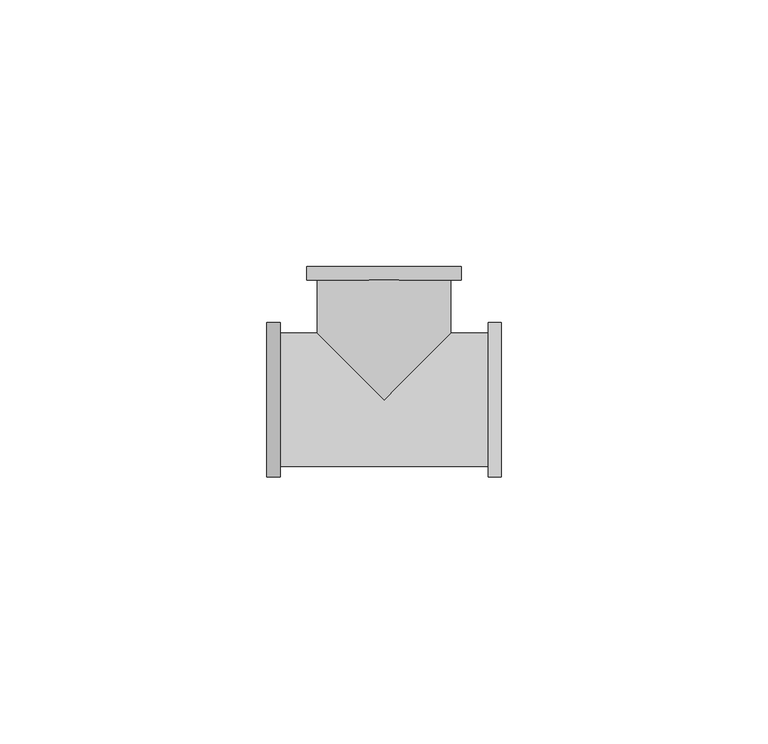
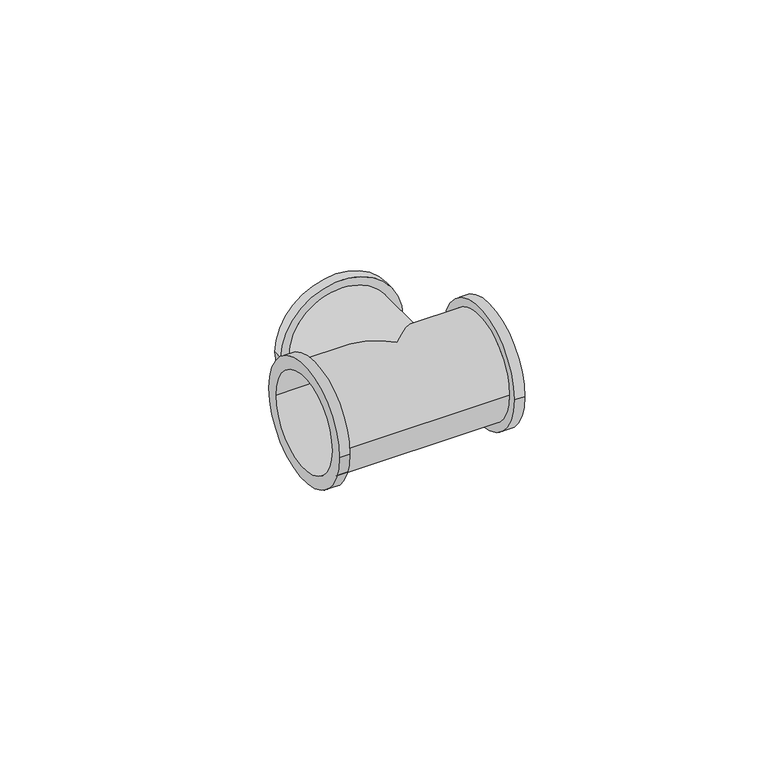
"""IFC4 building model written with IfcOpenShell, lengths in millimetres: pipe fitting geometry, БИР ПЕКС_НПР_Тройник ПЕКС : Тройник ПЕКС_НПР."""

from ifc_helpers import new_model, si_unit, frame, origin, place, context, project, spatial, polyline, circle_curve, ellipse_curve, source, transform, mapped, element, save
from ifc_brep_helpers import plane_surface, cylinder_surface, revolved_surface, advanced_brep


def pipe_fitting_b430804d(model_context):
    return source(origin(), model_context, "Body", "AdvancedBrep", [
        advanced_brep(
        [(-14.5, 25.0, 0.0), (14.5, 25.0, 0.0), (-11.5, 25.0, 0.0), (11.5, 25.0, 0.0), (12.5, 12.5, 0.0), (0.0, 0.0, -12.5), (-12.5, 12.5, 0.0), (-12.5, 22.5, 0.0), (12.5, 22.5, 0.0), (0.0, 0.0, 12.5), (22.0, -14.5, 0.0), (22.0, 14.5, 0.0), (22.0, 11.5, 0.0), (22.0, -11.5, 0.0), (-22.0, -14.5, 0.0), (-22.0, 14.5, 0.0), (-22.0, -11.5, 0.0), (-22.0, 11.5, 0.0), (19.5, 12.5, 0.0), (19.5, -12.5, 0.0), (-19.5, -12.5, 0.0), (-19.5, 12.5, 0.0), (-14.5, 22.5, 0.0), (14.5, 22.5, 0.0), (-19.5, -14.5, 0.0), (-19.5, 14.5, 0.0), (19.5, -14.5, 0.0), (19.5, 14.5, 0.0), (11.5, 11.5, 0.0), (0.0, 0.0, -11.5), (-11.5, 11.5, 0.0), (0.0, 0.0, 11.5)],
        [
            (0, 1, circle_curve(frame((0.0, 25.0, 0.0), z_axis=(0.0, 1.0, 0.0), x_axis=(1.0, 0.0, 0.0)), 14.5)),
            (1, 0, circle_curve(frame((0.0, 25.0, 0.0), z_axis=(0.0, 1.0, 0.0), x_axis=(1.0, 0.0, 0.0)), 14.5)),
            (2, 3, circle_curve(frame((0.0, 25.0, 0.0), z_axis=(0.0, -1.0, 0.0), x_axis=(1.0, 0.0, 0.0)), 11.5)),
            (3, 2, circle_curve(frame((0.0, 25.0, 0.0), z_axis=(0.0, -1.0, 0.0), x_axis=(1.0, 0.0, 0.0)), 11.5)),
            (4, 5, ellipse_curve(frame((0.0, 0.0, 0.0), z_axis=(-0.7071067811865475, 0.7071067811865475, 0.0), x_axis=(-0.7071067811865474, -0.7071067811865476, 0.0)), 17.6776695, 12.5)),
            (5, 6, ellipse_curve(frame((0.0, 0.0, 0.0), z_axis=(0.7071067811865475, 0.7071067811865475, 0.0), x_axis=(0.7071067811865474, -0.7071067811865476, 0.0)), 17.6776695, 12.5)),
            (6, 7),
            (7, 8, circle_curve(frame((0.0, 22.5, 0.0), z_axis=(0.0, -1.0, 0.0), x_axis=(1.0, 0.0, 0.0)), 12.5)),
            (8, 4),
            (9, 4, ellipse_curve(frame((0.0, 0.0, 0.0), z_axis=(-0.7071067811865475, 0.7071067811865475, 0.0), x_axis=(-0.7071067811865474, -0.7071067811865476, 0.0)), 17.6776695, 12.5)),
            (8, 7, circle_curve(frame((0.0, 22.5, 0.0), z_axis=(0.0, -1.0, 0.0), x_axis=(1.0, 0.0, 0.0)), 12.5)),
            (6, 9, ellipse_curve(frame((0.0, 0.0, 0.0), z_axis=(0.7071067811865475, 0.7071067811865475, 0.0), x_axis=(0.7071067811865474, -0.7071067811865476, 0.0)), 17.6776695, 12.5)),
            (10, 11, circle_curve(frame((22.0, 0.0, 0.0), z_axis=(1.0, 0.0, 0.0), x_axis=(0.0, 1.0, 0.0)), 14.5)),
            (11, 10, circle_curve(frame((22.0, 0.0, 0.0), z_axis=(1.0, 0.0, 0.0), x_axis=(0.0, 1.0, 0.0)), 14.5)),
            (12, 13, circle_curve(frame((22.0, 0.0, 0.0), z_axis=(-1.0, 0.0, 0.0), x_axis=(0.0, 1.0, 0.0)), 11.5)),
            (13, 12, circle_curve(frame((22.0, 0.0, 0.0), z_axis=(-1.0, 0.0, 0.0), x_axis=(0.0, 1.0, 0.0)), 11.5)),
            (14, 15, circle_curve(frame((-22.0, 0.0, 0.0), z_axis=(-1.0, 0.0, 0.0), x_axis=(0.0, 1.0, 0.0)), 14.5)),
            (15, 14, circle_curve(frame((-22.0, 0.0, 0.0), z_axis=(-1.0, 0.0, 0.0), x_axis=(0.0, 1.0, 0.0)), 14.5)),
            (16, 17, circle_curve(frame((-22.0, 0.0, 0.0), z_axis=(1.0, 0.0, 0.0), x_axis=(0.0, 1.0, 0.0)), 11.5)),
            (17, 16, circle_curve(frame((-22.0, 0.0, 0.0), z_axis=(1.0, 0.0, 0.0), x_axis=(0.0, 1.0, 0.0)), 11.5)),
            (4, 18),
            (18, 19, circle_curve(frame((19.5, 0.0, 0.0), z_axis=(-1.0, 0.0, 0.0), x_axis=(0.0, 1.0, 0.0)), 12.5)),
            (19, 20),
            (20, 21, circle_curve(frame((-19.5, 0.0, 0.0), z_axis=(1.0, 0.0, 0.0), x_axis=(0.0, 1.0, 0.0)), 12.5)),
            (21, 6),
            (21, 20, circle_curve(frame((-19.5, 0.0, 0.0), z_axis=(1.0, 0.0, 0.0), x_axis=(0.0, 1.0, 0.0)), 12.5)),
            (19, 18, circle_curve(frame((19.5, 0.0, 0.0), z_axis=(-1.0, 0.0, 0.0), x_axis=(0.0, 1.0, 0.0)), 12.5)),
            (22, 23, circle_curve(frame((0.0, 22.5, 0.0), z_axis=(0.0, -1.0, 0.0), x_axis=(1.0, 0.0, 0.0)), 14.5)),
            (23, 22, circle_curve(frame((0.0, 22.5, 0.0), z_axis=(0.0, -1.0, 0.0), x_axis=(1.0, 0.0, 0.0)), 14.5)),
            (22, 0),
            (1, 23),
            (24, 25, circle_curve(frame((-19.5, 0.0, 0.0), z_axis=(1.0, 0.0, 0.0), x_axis=(0.0, 1.0, 0.0)), 14.5)),
            (25, 24, circle_curve(frame((-19.5, 0.0, 0.0), z_axis=(1.0, 0.0, 0.0), x_axis=(0.0, 1.0, 0.0)), 14.5)),
            (15, 25),
            (24, 14),
            (26, 27, circle_curve(frame((19.5, 0.0, 0.0), z_axis=(-1.0, 0.0, 0.0), x_axis=(0.0, 1.0, 0.0)), 14.5)),
            (27, 26, circle_curve(frame((19.5, 0.0, 0.0), z_axis=(-1.0, 0.0, 0.0), x_axis=(0.0, 1.0, 0.0)), 14.5)),
            (10, 26),
            (27, 11),
            (16, 13),
            (12, 28),
            (28, 29, ellipse_curve(frame((0.0, 0.0, 0.0), z_axis=(-0.7071067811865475, 0.7071067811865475, 0.0), x_axis=(0.7071067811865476, 0.7071067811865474, 0.0)), 16.263456, 11.5)),
            (29, 30, ellipse_curve(frame((0.0, 0.0, 0.0), z_axis=(0.7071067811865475, 0.7071067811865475, 0.0), x_axis=(0.7071067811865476, -0.7071067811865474, 0.0)), 16.263456, 11.5)),
            (30, 17),
            (30, 31, ellipse_curve(frame((0.0, 0.0, 0.0), z_axis=(0.7071067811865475, 0.7071067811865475, 0.0), x_axis=(0.7071067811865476, -0.7071067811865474, 0.0)), 16.263456, 11.5)),
            (31, 28, ellipse_curve(frame((0.0, 0.0, 0.0), z_axis=(-0.7071067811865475, 0.7071067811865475, 0.0), x_axis=(0.7071067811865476, 0.7071067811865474, 0.0)), 16.263456, 11.5)),
            (2, 30),
            (28, 3),
        ],
        [
            plane_surface(frame((12.5, 25.0, 0.0), z_axis=(0.0, 1.0, 0.0), x_axis=(0.0, 0.0, -1.0))),
            cylinder_surface(frame((0.0, 25.0, 0.0), z_axis=(0.0, -1.0, 0.0), x_axis=(1.0, 0.0, 0.0)), 12.5),
            plane_surface(frame((22.0, 12.5, 0.0), z_axis=(1.0, 0.0, 0.0), x_axis=(0.0, 0.0, 1.0))),
            plane_surface(frame((-22.0, 12.5, 0.0), z_axis=(-1.0, 0.0, 0.0), x_axis=(0.0, 0.0, -1.0))),
            cylinder_surface(frame((-22.0, 0.0, 0.0), z_axis=(1.0, 0.0, 0.0), x_axis=(0.0, 1.0, 0.0)), 12.5),
            plane_surface(frame((14.5, 22.5, 0.0), z_axis=(0.0, -1.0, 0.0), x_axis=(0.0, 0.0, 1.0))),
            cylinder_surface(frame((0.0, 25.0, 0.0), z_axis=(0.0, -1.0, 0.0), x_axis=(1.0, 0.0, 0.0)), 14.5),
            plane_surface(frame((-19.5, 14.5, 0.0), z_axis=(1.0, 0.0, 0.0), x_axis=(0.0, 0.0, 1.0))),
            cylinder_surface(frame((-19.5, 0.0, 0.0), z_axis=(-1.0, 0.0, 0.0), x_axis=(0.0, 1.0, 0.0)), 14.5),
            plane_surface(frame((19.5, 14.5, 0.0), z_axis=(-1.0, 0.0, 0.0), x_axis=(0.0, 0.0, -1.0))),
            cylinder_surface(frame((19.5, 0.0, 0.0), z_axis=(1.0, 0.0, 0.0), x_axis=(0.0, 1.0, 0.0)), 14.5),
            revolved_surface(polyline([(22.0, 11.5, 0.0), (-22.0, 11.5, 0.0)]), (-22.0, 0.0, 0.0), (1.0, 0.0, 0.0)),
            revolved_surface(polyline([(11.5, -11.50000002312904, 0.0), (11.5, 25.0, 0.0)]), (0.0, 25.0, 0.0), (0.0, -1.0, 0.0)),
        ],
        [
            (0, [[1, 2], [3, 4]]),
            (1, [[5, 6, 7, 8, 9]]),
            (1, [[10, -9, 11, -7, 12]]),
            (2, [[13, 14], [15, 16]]),
            (3, [[17, 18], [19, 20]]),
            (4, [[-5, 21, 22, 23, 24, 25, -6]]),
            (4, [[-10, -12, -25, 26, -23, 27, -21]]),
            (5, [[28, 29], [-8, -11]]),
            (6, [[-28, 30, -2, 31]]),
            (6, [[-29, -31, -1, -30]]),
            (7, [[32, 33], [-24, -26]]),
            (8, [[-18, 34, -32, 35]]),
            (8, [[-17, -35, -33, -34]]),
            (9, [[36, 37], [-22, -27]]),
            (10, [[-13, 38, -37, 39]]),
            (10, [[-14, -39, -36, -38]]),
            (11, [[40, -15, 41, 42, 43, 44, -19]]),
            (11, [[-40, -20, -44, 45, 46, -41, -16]]),
            (12, [[47, -43, -42, 48, -3]]),
            (12, [[-47, -4, -48, -46, -45]]),
        ],
    ),
    ])


if __name__ == "__main__":
    model = new_model("IFC4")
    model_context = context("Model", 3, world=origin())
    ifc_project = project(units=[si_unit("LENGTHUNIT", "METRE", prefix="MILLI")], contexts=[model_context])
    site = spatial("IfcSite", under=ifc_project)
    building = spatial("IfcBuilding", under=site)
    placement = place(None, origin())
    pipe_fitting_shape = pipe_fitting_b430804d(model_context)
    element("IfcPipeFitting", 1, ObjectType="БИР ПЕКС_НПР_Тройник ПЕКС : Тройник ПЕКС_НПР", at=placement, inside=building, context=model_context, shape_type="MappedRepresentation", body=[
        mapped(pipe_fitting_shape, transform((0.0, 0.0, 0.0), x_axis=(1.0, 0.0, 0.0), y_axis=(0.0, 1.0, 0.0), z_axis=(0.0, 0.0, 1.0))),
    ])
    save(model, "model.ifc")
